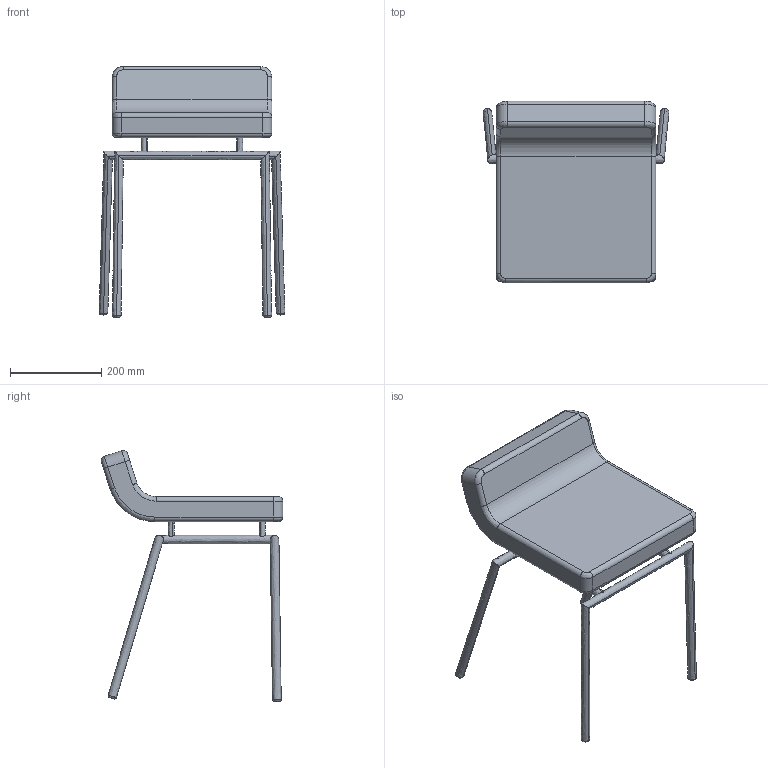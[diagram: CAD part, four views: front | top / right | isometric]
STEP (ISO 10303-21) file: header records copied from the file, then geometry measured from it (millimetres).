
FILE_DESCRIPTION(/* description */ (''),/* implementation_level */ '2;1');
FILE_NAME(/* name */ 'KINOSH~1',/* time_stamp */ '2019-07-19T20:32:33+09:00',/* author */ (''),/* organization */ (''),/* preprocessor_version */ 'ST-DEVELOPER v15',/* originating_system */ '',/* authorisation */ '');
FILE_SCHEMA (('AUTOMOTIVE_DESIGN'));
Length unit declared in the file: millimetre
Products named in the file (1): Document
Bounding box: 406.76 x 397.62 x 549.66 mm (x, y, z)
Volume: 9422812.2 mm3; surface area: 546223.7 mm2
Topology: 2 solids, 2 shells, 78 faces, 196 edges, 120 vertices
Faces by surface type: bspline 68, plane 10
Entity records: 4302 total; most frequent: CARTESIAN_POINT 3246, ORIENTED_EDGE 392, EDGE_CURVE 196, VERTEX_POINT 120, ADVANCED_FACE 78, FACE_OUTER_BOUND 78, EDGE_LOOP 78, B_SPLINE_CURVE_WITH_KNOTS 56
